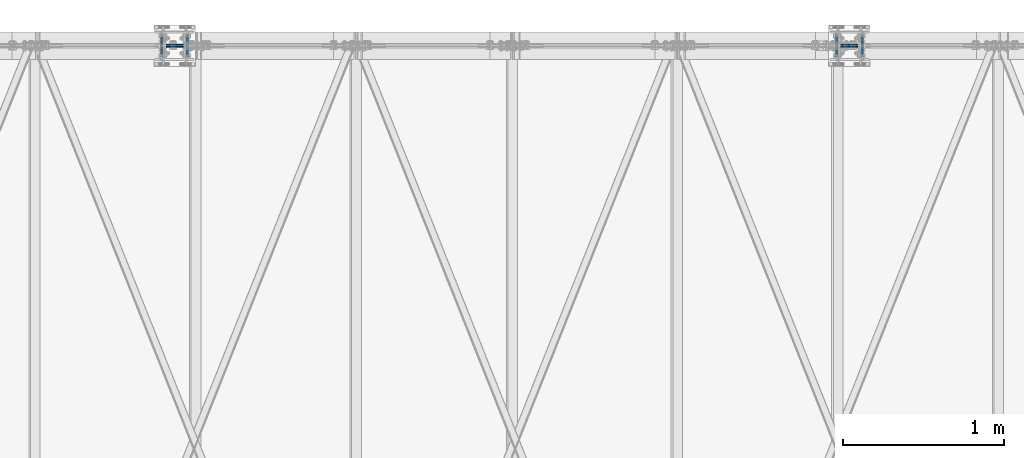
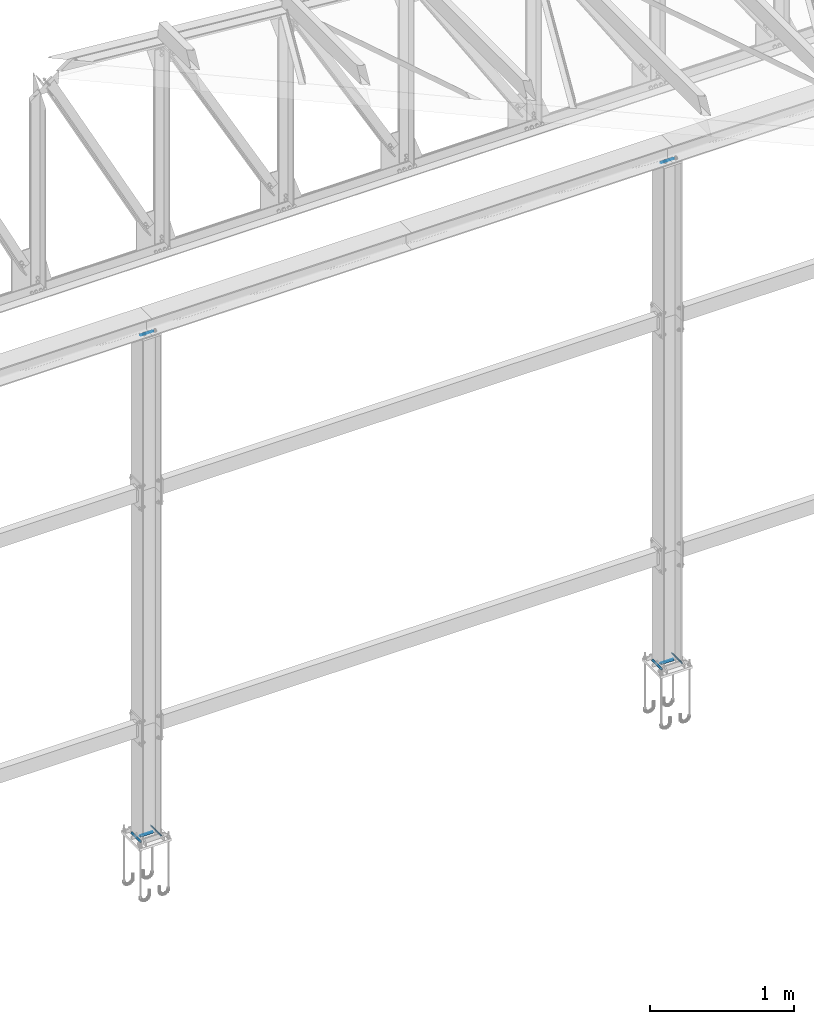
# One storey, part 51 of 251: 24 fasteners.
"""IFC4 building model written with IfcOpenShell, lengths in metres."""

from ifc_helpers import new_model, si_unit, frame, origin_with_axes, place, context, project, spatial, polyline, outline, extrude, type_object, element, save


model = new_model("IFC4")

# Units and contexts
model_context = context("Model", 3, precision=1e-05, world=origin_with_axes())
ifc_project = project(units=[si_unit("LENGTHUNIT", "METRE"), si_unit("AREAUNIT", "SQUARE_METRE"), si_unit("VOLUMEUNIT", "CUBIC_METRE"), si_unit("MASSUNIT", "GRAM", prefix="KILO"), si_unit("TIMEUNIT", "SECOND"), si_unit("PLANEANGLEUNIT", "RADIAN"), si_unit("SOLIDANGLEUNIT", "STERADIAN"), si_unit("THERMODYNAMICTEMPERATUREUNIT", "DEGREE_CELSIUS")], contexts=[model_context])

# Site, building, storey
placement_1 = place(None, origin_with_axes())
site = spatial("IfcSite", under=ifc_project, at=placement_1, Name="Italia", CompositionType="ELEMENT")
building = spatial("IfcBuilding", under=site, at=placement_1, Name="Deposito", CompositionType="ELEMENT")
storey = spatial("IfcBuildingStorey", under=building, at=placement_1, Name="Storey 0", CompositionType="ELEMENT", Elevation=0.0)

# Fasteners
fastener_type_1 = type_object("IfcFastenerType", Name="Collegamenti 0068_-006 0074_-007", PredefinedType="WELD")
placement_2 = place(placement_1, origin_with_axes())
fastener_1_placement = place(placement_2, origin_with_axes())
element("IfcFastener", 1, at=fastener_1_placement, inside=storey, type_object=fastener_type_1, Name="Collegamenti 0068_-006 0074_-007", context=model_context, shape_type="SweptSolid", body=[
    extrude(outline(polyline([(0.0, 0.0), (0.0118074, 0.0121734), (0.0118074, 0.0), (0.0, 0.0)])), frame((10.8272, 20.0681, 0.06995), z_axis=(0.0, -1.0, 0.0), x_axis=(1.0, 0.0, 0.0)), (0.0, 0.0, 1.0), 0.136101),
])
fastener_type_2 = type_object("IfcFastenerType", Name="Collegamenti 0068_-006 0074_-007", PredefinedType="WELD")
fastener_2_placement = place(placement_2, origin_with_axes())
element("IfcFastener", 2, at=fastener_2_placement, inside=storey, type_object=fastener_type_2, Name="Collegamenti 0068_-006 0074_-007", context=model_context, shape_type="SweptSolid", body=[
    extrude(outline(polyline([(0.0, 0.0), (0.0118074, 0.0121734), (0.0118074, 0.0), (0.0, 0.0)])), frame((11.0028, 19.9319, 0.06995), z_axis=(0.0, 1.0, 0.0), x_axis=(-1.0, 0.0, 0.0)), (0.0, 0.0, 1.0), 0.136101),
])
fastener_type_3 = type_object("IfcFastenerType", Name="Collegamenti 0068_-006 0074_-007", PredefinedType="WELD")
fastener_3_placement = place(placement_2, origin_with_axes())
element("IfcFastener", 3, at=fastener_3_placement, inside=storey, type_object=fastener_type_3, Name="Collegamenti 0068_-006 0074_-007", context=model_context, shape_type="SweptSolid", body=[
    extrude(outline(polyline([(0.0, 0.0), (0.00792694, 0.00817336), (0.00792694, 0.0), (0.0, 0.0)])), frame((10.9671, 20.0109, 0.06995), z_axis=(-1.0, 0.0, 0.0), x_axis=(0.0, -1.0, 0.0)), (0.0, 0.0, 1.0), 0.104101),
])
fastener_type_4 = type_object("IfcFastenerType", Name="Collegamenti 0068_-006 0074_-007", PredefinedType="WELD")
fastener_4_placement = place(placement_2, origin_with_axes())
element("IfcFastener", 4, at=fastener_4_placement, inside=storey, type_object=fastener_type_4, Name="Collegamenti 0068_-006 0074_-007", context=model_context, shape_type="SweptSolid", body=[
    extrude(outline(polyline([(0.0, 0.0), (0.00792694, 0.00817336), (0.00792694, 0.0), (0.0, 0.0)])), frame((10.8629, 19.9891, 0.06995), z_axis=(1.0, 0.0, 0.0), x_axis=(0.0, 1.0, 0.0)), (0.0, 0.0, 1.0), 0.104101),
])
fastener_type_5 = type_object("IfcFastenerType", Name="Collegamenti 0068_-006 0074_-007", PredefinedType="WELD")
fastener_5_placement = place(placement_2, origin_with_axes())
element("IfcFastener", 5, at=fastener_5_placement, inside=storey, type_object=fastener_type_5, Name="Collegamenti 0068_-006 0074_-007", context=model_context, shape_type="SweptSolid", body=[
    extrude(outline(polyline([(0.0, 0.0), (0.0118074, 0.0121734), (0.0118074, 0.0), (0.0, 0.0)])), frame((10.8272, 20.0681, 0.06995), z_axis=(0.0, -1.0, 0.0), x_axis=(1.0, 0.0, 0.0)), (0.0, 0.0, 1.0), 0.136101),
])
fastener_type_6 = type_object("IfcFastenerType", Name="Collegamenti 0068_-006 0074_-007", PredefinedType="WELD")
fastener_6_placement = place(placement_2, origin_with_axes())
element("IfcFastener", 6, at=fastener_6_placement, inside=storey, type_object=fastener_type_6, Name="Collegamenti 0068_-006 0074_-007", context=model_context, shape_type="SweptSolid", body=[
    extrude(outline(polyline([(0.0, 0.0), (0.0118074, 0.0121734), (0.0118074, 0.0), (0.0, 0.0)])), frame((11.0028, 19.9319, 0.06995), z_axis=(0.0, 1.0, 0.0), x_axis=(-1.0, 0.0, 0.0)), (0.0, 0.0, 1.0), 0.136101),
])
fastener_type_7 = type_object("IfcFastenerType", Name="Collegamenti 0068_-006 0074_-007", PredefinedType="WELD")
fastener_7_placement = place(placement_2, origin_with_axes())
element("IfcFastener", 7, at=fastener_7_placement, inside=storey, type_object=fastener_type_7, Name="Collegamenti 0068_-006 0074_-007", context=model_context, shape_type="SweptSolid", body=[
    extrude(outline(polyline([(0.0, 0.0), (0.00792694, 0.00817336), (0.00792694, 0.0), (0.0, 0.0)])), frame((10.9671, 20.0109, 0.06995), z_axis=(-1.0, 0.0, 0.0), x_axis=(0.0, -1.0, 0.0)), (0.0, 0.0, 1.0), 0.104101),
])
fastener_type_8 = type_object("IfcFastenerType", Name="Collegamenti 0068_-006 0074_-007", PredefinedType="WELD")
fastener_8_placement = place(placement_2, origin_with_axes())
element("IfcFastener", 8, at=fastener_8_placement, inside=storey, type_object=fastener_type_8, Name="Collegamenti 0068_-006 0074_-007", context=model_context, shape_type="SweptSolid", body=[
    extrude(outline(polyline([(0.0, 0.0), (0.00792694, 0.00817336), (0.00792694, 0.0), (0.0, 0.0)])), frame((10.8629, 19.9891, 0.06995), z_axis=(1.0, 0.0, 0.0), x_axis=(0.0, 1.0, 0.0)), (0.0, 0.0, 1.0), 0.104101),
])
fastener_type_9 = type_object("IfcFastenerType", Name="Collegamenti 0068_-006 0074_-007", PredefinedType="WELD")
fastener_9_placement = place(placement_2, origin_with_axes())
element("IfcFastener", 9, at=fastener_9_placement, inside=storey, type_object=fastener_type_9, Name="Collegamenti 0068_-006 0074_-007", context=model_context, shape_type="SweptSolid", body=[
    extrude(outline(polyline([(0.0, 0.0), (0.0118074, 0.0121734), (0.0118074, 0.0), (0.0, 0.0)])), frame((15.0122, 20.0681, 0.06995), z_axis=(0.0, -1.0, 0.0), x_axis=(1.0, 0.0, 0.0)), (0.0, 0.0, 1.0), 0.136101),
])
fastener_type_10 = type_object("IfcFastenerType", Name="Collegamenti 0068_-006 0074_-007", PredefinedType="WELD")
fastener_10_placement = place(placement_2, origin_with_axes())
element("IfcFastener", 10, at=fastener_10_placement, inside=storey, type_object=fastener_type_10, Name="Collegamenti 0068_-006 0074_-007", context=model_context, shape_type="SweptSolid", body=[
    extrude(outline(polyline([(0.0, 0.0), (0.0118074, 0.0121734), (0.0118074, 0.0), (0.0, 0.0)])), frame((15.1878, 19.9319, 0.06995), z_axis=(0.0, 1.0, 0.0), x_axis=(-1.0, 0.0, 0.0)), (0.0, 0.0, 1.0), 0.136101),
])
fastener_type_11 = type_object("IfcFastenerType", Name="Collegamenti 0068_-006 0074_-007", PredefinedType="WELD")
fastener_11_placement = place(placement_2, origin_with_axes())
element("IfcFastener", 11, at=fastener_11_placement, inside=storey, type_object=fastener_type_11, Name="Collegamenti 0068_-006 0074_-007", context=model_context, shape_type="SweptSolid", body=[
    extrude(outline(polyline([(0.0, 0.0), (0.00792694, 0.00817336), (0.00792694, 0.0), (0.0, 0.0)])), frame((15.1521, 20.0109, 0.06995), z_axis=(-1.0, 0.0, 0.0), x_axis=(0.0, -1.0, 0.0)), (0.0, 0.0, 1.0), 0.104101),
])
fastener_type_12 = type_object("IfcFastenerType", Name="Collegamenti 0068_-006 0074_-007", PredefinedType="WELD")
fastener_12_placement = place(placement_2, origin_with_axes())
element("IfcFastener", 12, at=fastener_12_placement, inside=storey, type_object=fastener_type_12, Name="Collegamenti 0068_-006 0074_-007", context=model_context, shape_type="SweptSolid", body=[
    extrude(outline(polyline([(0.0, 0.0), (0.00792694, 0.00817336), (0.00792694, 0.0), (0.0, 0.0)])), frame((15.0479, 19.9891, 0.06995), z_axis=(1.0, 0.0, 0.0), x_axis=(0.0, 1.0, 0.0)), (0.0, 0.0, 1.0), 0.104101),
])
fastener_type_13 = type_object("IfcFastenerType", Name="Collegamenti 0068_-006 0074_-007", PredefinedType="WELD")
fastener_13_placement = place(placement_2, origin_with_axes())
element("IfcFastener", 13, at=fastener_13_placement, inside=storey, type_object=fastener_type_13, Name="Collegamenti 0068_-006 0074_-007", context=model_context, shape_type="SweptSolid", body=[
    extrude(outline(polyline([(0.0, 0.0), (0.0118074, 0.0121734), (0.0118074, 0.0), (0.0, 0.0)])), frame((15.0122, 20.0681, 0.06995), z_axis=(0.0, -1.0, 0.0), x_axis=(1.0, 0.0, 0.0)), (0.0, 0.0, 1.0), 0.136101),
])
fastener_type_14 = type_object("IfcFastenerType", Name="Collegamenti 0068_-006 0074_-007", PredefinedType="WELD")
fastener_14_placement = place(placement_2, origin_with_axes())
element("IfcFastener", 14, at=fastener_14_placement, inside=storey, type_object=fastener_type_14, Name="Collegamenti 0068_-006 0074_-007", context=model_context, shape_type="SweptSolid", body=[
    extrude(outline(polyline([(0.0, 0.0), (0.0118074, 0.0121734), (0.0118074, 0.0), (0.0, 0.0)])), frame((15.1878, 19.9319, 0.06995), z_axis=(0.0, 1.0, 0.0), x_axis=(-1.0, 0.0, 0.0)), (0.0, 0.0, 1.0), 0.136101),
])
fastener_type_15 = type_object("IfcFastenerType", Name="Collegamenti 0068_-006 0074_-007", PredefinedType="WELD")
fastener_15_placement = place(placement_2, origin_with_axes())
element("IfcFastener", 15, at=fastener_15_placement, inside=storey, type_object=fastener_type_15, Name="Collegamenti 0068_-006 0074_-007", context=model_context, shape_type="SweptSolid", body=[
    extrude(outline(polyline([(0.0, 0.0), (0.00792694, 0.00817336), (0.00792694, 0.0), (0.0, 0.0)])), frame((15.1521, 20.0109, 0.06995), z_axis=(-1.0, 0.0, 0.0), x_axis=(0.0, -1.0, 0.0)), (0.0, 0.0, 1.0), 0.104101),
])
fastener_type_16 = type_object("IfcFastenerType", Name="Collegamenti 0068_-006 0074_-007", PredefinedType="WELD")
fastener_16_placement = place(placement_2, origin_with_axes())
element("IfcFastener", 16, at=fastener_16_placement, inside=storey, type_object=fastener_type_16, Name="Collegamenti 0068_-006 0074_-007", context=model_context, shape_type="SweptSolid", body=[
    extrude(outline(polyline([(0.0, 0.0), (0.00792694, 0.00817336), (0.00792694, 0.0), (0.0, 0.0)])), frame((15.0479, 19.9891, 0.06995), z_axis=(1.0, 0.0, 0.0), x_axis=(0.0, 1.0, 0.0)), (0.0, 0.0, 1.0), 0.104101),
])
fastener_type_17 = type_object("IfcFastenerType", Name="Collegamenti 7068_-014 7074_-015", PredefinedType="WELD")
fastener_17_placement = place(placement_2, origin_with_axes())
element("IfcFastener", 17, at=fastener_17_placement, inside=storey, type_object=fastener_type_17, Name="Collegamenti 7068_-014 7074_-015", context=model_context, shape_type="SweptSolid", body=[
    extrude(outline(polyline([(0.0, 0.0), (-0.00792694, -0.00817347), (-0.00792694, 0.0), (0.0, 0.0)])), frame((10.8629, 20.0109, 4.33305), z_axis=(1.0, 0.0, 0.0), x_axis=(0.0, 1.0, 0.0)), (0.0, 0.0, 1.0), 0.104101),
])
fastener_type_18 = type_object("IfcFastenerType", Name="Collegamenti 7068_-014 7074_-015", PredefinedType="WELD")
fastener_18_placement = place(placement_2, origin_with_axes())
element("IfcFastener", 18, at=fastener_18_placement, inside=storey, type_object=fastener_type_18, Name="Collegamenti 7068_-014 7074_-015", context=model_context, shape_type="SweptSolid", body=[
    extrude(outline(polyline([(0.0, 0.0), (-0.00792694, -0.00817347), (-0.00792694, 0.0), (0.0, 0.0)])), frame((10.9671, 19.9891, 4.33305), z_axis=(-1.0, 0.0, 0.0), x_axis=(0.0, -1.0, 0.0)), (0.0, 0.0, 1.0), 0.104101),
])
fastener_type_19 = type_object("IfcFastenerType", Name="Collegamenti 7068_-014 7074_-015", PredefinedType="WELD")
fastener_19_placement = place(placement_2, origin_with_axes())
element("IfcFastener", 19, at=fastener_19_placement, inside=storey, type_object=fastener_type_19, Name="Collegamenti 7068_-014 7074_-015", context=model_context, shape_type="SweptSolid", body=[
    extrude(outline(polyline([(0.0, 0.0), (-0.00792694, -0.00817347), (-0.00792694, 0.0), (0.0, 0.0)])), frame((10.8629, 20.0109, 4.33305), z_axis=(1.0, 0.0, 0.0), x_axis=(0.0, 1.0, 0.0)), (0.0, 0.0, 1.0), 0.104101),
])
fastener_type_20 = type_object("IfcFastenerType", Name="Collegamenti 7068_-014 7074_-015", PredefinedType="WELD")
fastener_20_placement = place(placement_2, origin_with_axes())
element("IfcFastener", 20, at=fastener_20_placement, inside=storey, type_object=fastener_type_20, Name="Collegamenti 7068_-014 7074_-015", context=model_context, shape_type="SweptSolid", body=[
    extrude(outline(polyline([(0.0, 0.0), (-0.00792694, -0.00817347), (-0.00792694, 0.0), (0.0, 0.0)])), frame((10.9671, 19.9891, 4.33305), z_axis=(-1.0, 0.0, 0.0), x_axis=(0.0, -1.0, 0.0)), (0.0, 0.0, 1.0), 0.104101),
])
fastener_type_21 = type_object("IfcFastenerType", Name="Collegamenti 7068_-014 7074_-015", PredefinedType="WELD")
fastener_21_placement = place(placement_2, origin_with_axes())
element("IfcFastener", 21, at=fastener_21_placement, inside=storey, type_object=fastener_type_21, Name="Collegamenti 7068_-014 7074_-015", context=model_context, shape_type="SweptSolid", body=[
    extrude(outline(polyline([(0.0, 0.0), (-0.00792694, -0.00817347), (-0.00792694, 0.0), (0.0, 0.0)])), frame((15.0479, 20.0109, 4.33305), z_axis=(1.0, 0.0, 0.0), x_axis=(0.0, 1.0, 0.0)), (0.0, 0.0, 1.0), 0.104101),
])
fastener_type_22 = type_object("IfcFastenerType", Name="Collegamenti 7068_-014 7074_-015", PredefinedType="WELD")
fastener_22_placement = place(placement_2, origin_with_axes())
element("IfcFastener", 22, at=fastener_22_placement, inside=storey, type_object=fastener_type_22, Name="Collegamenti 7068_-014 7074_-015", context=model_context, shape_type="SweptSolid", body=[
    extrude(outline(polyline([(0.0, 0.0), (-0.00792694, -0.00817347), (-0.00792694, 0.0), (0.0, 0.0)])), frame((15.1521, 19.9891, 4.33305), z_axis=(-1.0, 0.0, 0.0), x_axis=(0.0, -1.0, 0.0)), (0.0, 0.0, 1.0), 0.104101),
])
fastener_type_23 = type_object("IfcFastenerType", Name="Collegamenti 7068_-014 7074_-015", PredefinedType="WELD")
fastener_23_placement = place(placement_2, origin_with_axes())
element("IfcFastener", 23, at=fastener_23_placement, inside=storey, type_object=fastener_type_23, Name="Collegamenti 7068_-014 7074_-015", context=model_context, shape_type="SweptSolid", body=[
    extrude(outline(polyline([(0.0, 0.0), (-0.00792694, -0.00817347), (-0.00792694, 0.0), (0.0, 0.0)])), frame((15.0479, 20.0109, 4.33305), z_axis=(1.0, 0.0, 0.0), x_axis=(0.0, 1.0, 0.0)), (0.0, 0.0, 1.0), 0.104101),
])
fastener_type_24 = type_object("IfcFastenerType", Name="Collegamenti 7068_-014 7074_-015", PredefinedType="WELD")
fastener_24_placement = place(placement_2, origin_with_axes())
element("IfcFastener", 24, at=fastener_24_placement, inside=storey, type_object=fastener_type_24, Name="Collegamenti 7068_-014 7074_-015", context=model_context, shape_type="SweptSolid", body=[
    extrude(outline(polyline([(0.0, 0.0), (-0.00792694, -0.00817347), (-0.00792694, 0.0), (0.0, 0.0)])), frame((15.1521, 19.9891, 4.33305), z_axis=(-1.0, 0.0, 0.0), x_axis=(0.0, -1.0, 0.0)), (0.0, 0.0, 1.0), 0.104101),
])

save(model, "model.ifc")
